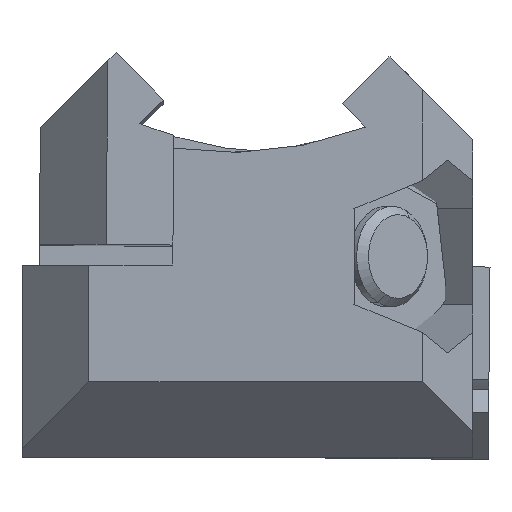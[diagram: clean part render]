
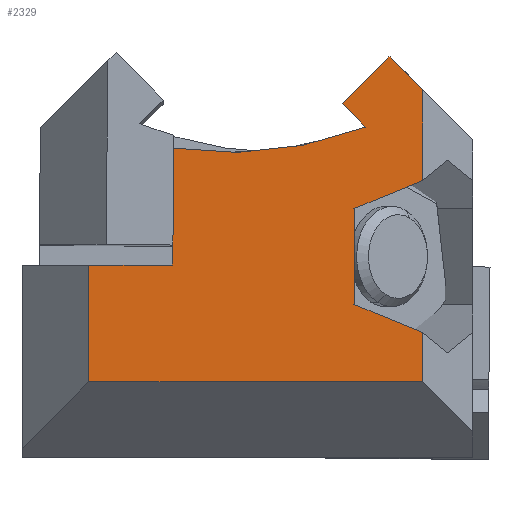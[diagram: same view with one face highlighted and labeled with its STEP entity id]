
A CAD part, left-side view. The second image highlights one B-rep face of the part: STEP entity #2329.
In plain terms, the highlighted planar face has unit normal (-1, 0, 0).
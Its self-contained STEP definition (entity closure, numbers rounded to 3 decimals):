
#41 = VECTOR ( 'NONE', #1676, 1000. ) ;
#56 = VECTOR ( 'NONE', #3188, 1000. ) ;
#78 = CARTESIAN_POINT ( 'NONE',  ( -10.8, -17.634, 19. ) ) ;
#108 = ORIENTED_EDGE ( 'NONE', *, *, #1077, .T. ) ;
#127 = DIRECTION ( 'NONE',  ( 0., 0., 1. ) ) ;
#146 = CARTESIAN_POINT ( 'NONE',  ( -10.8, -25.634, 4.5 ) ) ;
#163 = CARTESIAN_POINT ( 'NONE',  ( -10.8, -10.565, 9.121 ) ) ;
#179 = EDGE_CURVE ( 'NONE', #3234, #1334, #1851, .T. ) ;
#203 = VECTOR ( 'NONE', #2403, 1000. ) ;
#234 = AXIS2_PLACEMENT_3D ( 'NONE', #1152, #3033, #1417 ) ;
#255 = VECTOR ( 'NONE', #127, 1000. ) ;
#280 = ORIENTED_EDGE ( 'NONE', *, *, #2457, .F. ) ;
#312 = CARTESIAN_POINT ( 'NONE',  ( -10.8, 5.366, 4.5 ) ) ;
#350 = CARTESIAN_POINT ( 'NONE',  ( -10.8, -14.634, 22. ) ) ;
#385 = EDGE_CURVE ( 'NONE', #3184, #3446, #401, .T. ) ;
#398 = DIRECTION ( 'NONE',  ( 0., 0., 1. ) ) ;
#401 = LINE ( 'NONE', #473, #549 ) ;
#473 = CARTESIAN_POINT ( 'NONE',  ( -10.8, -12.678, 23.956 ) ) ;
#536 = CARTESIAN_POINT ( 'NONE',  ( -10.8, 11.725, 18.221 ) ) ;
#549 = VECTOR ( 'NONE', #2080, 1000. ) ;
#610 = CARTESIAN_POINT ( 'NONE',  ( -10.8, 9.366, 11.5 ) ) ;
#655 = ORIENTED_EDGE ( 'NONE', *, *, #385, .F. ) ;
#657 = VECTOR ( 'NONE', #398, 1000. ) ;
#691 = VERTEX_POINT ( 'NONE', #1991 ) ;
#696 = ORIENTED_EDGE ( 'NONE', *, *, #1262, .F. ) ;
#711 = VERTEX_POINT ( 'NONE', #163 ) ;
#814 = VERTEX_POINT ( 'NONE', #1584 ) ;
#857 = LINE ( 'NONE', #2115, #1492 ) ;
#871 = DIRECTION ( 'NONE',  ( 0., 0.707, 0.707 ) ) ;
#929 = LINE ( 'NONE', #3049, #1721 ) ;
#930 = CARTESIAN_POINT ( 'NONE',  ( -10.8, -3.071, 40.838 ) ) ;
#984 = DIRECTION ( 'NONE',  ( 0., 0., 1. ) ) ;
#998 = VERTEX_POINT ( 'NONE', #312 ) ;
#1014 = ORIENTED_EDGE ( 'NONE', *, *, #3011, .T. ) ;
#1059 = ORIENTED_EDGE ( 'NONE', *, *, #2738, .F. ) ;
#1077 = EDGE_CURVE ( 'NONE', #711, #2038, #2129, .T. ) ;
#1152 = CARTESIAN_POINT ( 'NONE',  ( -10.8, 9.366, 24. ) ) ;
#1196 = CARTESIAN_POINT ( 'NONE',  ( -10.8, -14.634, -22.544 ) ) ;
#1203 = DIRECTION ( 'NONE',  ( 0., -1., 0. ) ) ;
#1226 = LINE ( 'NONE', #2530, #2467 ) ;
#1258 = CARTESIAN_POINT ( 'NONE',  ( -10.8, 5.366, 11.5 ) ) ;
#1262 = EDGE_CURVE ( 'NONE', #1863, #1385, #929, .T. ) ;
#1309 = CARTESIAN_POINT ( 'NONE',  ( -10.8, -9.806, 21.172 ) ) ;
#1324 = EDGE_CURVE ( 'NONE', #3446, #1334, #2830, .T. ) ;
#1334 = VERTEX_POINT ( 'NONE', #350 ) ;
#1361 = DIRECTION ( 'NONE',  ( 0., -0.926, 0.378 ) ) ;
#1363 = LINE ( 'NONE', #1990, #657 ) ;
#1385 = VERTEX_POINT ( 'NONE', #3061 ) ;
#1407 = EDGE_CURVE ( 'NONE', #998, #3211, #1226, .T. ) ;
#1417 = DIRECTION ( 'NONE',  ( 0., 1., 0. ) ) ;
#1466 = ORIENTED_EDGE ( 'NONE', *, *, #1324, .F. ) ;
#1492 = VECTOR ( 'NONE', #3471, 1000. ) ;
#1507 = CARTESIAN_POINT ( 'NONE',  ( -10.8, -12.591, 23.956 ) ) ;
#1584 = CARTESIAN_POINT ( 'NONE',  ( -10.8, -14.634, 4.5 ) ) ;
#1625 = EDGE_LOOP ( 'NONE', ( #108, #2884, #1804, #1466, #655, #2141, #696, #3116, #1059, #2863, #1718, #280, #1014, #3368 ) ) ;
#1626 = LINE ( 'NONE', #536, #203 ) ;
#1642 = VECTOR ( 'NONE', #2011, 1000. ) ;
#1676 = DIRECTION ( 'NONE',  ( 0., -0.707, -0.707 ) ) ;
#1681 = CARTESIAN_POINT ( 'NONE',  ( -10.8, -14.634, 7.459 ) ) ;
#1685 = VECTOR ( 'NONE', #1361, 1000. ) ;
#1716 = DIRECTION ( 'NONE',  ( 0., 0., 1. ) ) ;
#1718 = ORIENTED_EDGE ( 'NONE', *, *, #1407, .F. ) ;
#1721 = VECTOR ( 'NONE', #871, 1000. ) ;
#1727 = AXIS2_PLACEMENT_3D ( 'NONE', #930, #2817, #1203 ) ;
#1747 = EDGE_CURVE ( 'NONE', #2925, #711, #1626, .T. ) ;
#1804 = ORIENTED_EDGE ( 'NONE', *, *, #179, .T. ) ;
#1851 = LINE ( 'NONE', #1196, #255 ) ;
#1863 = VERTEX_POINT ( 'NONE', #1915 ) ;
#1869 = CARTESIAN_POINT ( 'NONE',  ( -10.8, 0.366, 18.5 ) ) ;
#1915 = CARTESIAN_POINT ( 'NONE',  ( -10.8, -11.22, 19.757 ) ) ;
#1990 = CARTESIAN_POINT ( 'NONE',  ( -10.8, -14.634, -22.544 ) ) ;
#1991 = CARTESIAN_POINT ( 'NONE',  ( -10.8, 0.366, 11.5 ) ) ;
#2011 = DIRECTION ( 'NONE',  ( 0., 1., 0. ) ) ;
#2037 = EDGE_CURVE ( 'NONE', #1385, #3184, #2844, .T. ) ;
#2038 = VERTEX_POINT ( 'NONE', #2824 ) ;
#2063 = FACE_OUTER_BOUND ( 'NONE', #1625, .T. ) ;
#2072 = CIRCLE ( 'NONE', #1727, 22.601 ) ;
#2080 = DIRECTION ( 'NONE',  ( 0., -1., 0. ) ) ;
#2115 = CARTESIAN_POINT ( 'NONE',  ( -10.8, 0.366, 11.5 ) ) ;
#2129 = LINE ( 'NONE', #2879, #2576 ) ;
#2134 = VERTEX_POINT ( 'NONE', #1869 ) ;
#2141 = ORIENTED_EDGE ( 'NONE', *, *, #2037, .F. ) ;
#2155 = EDGE_CURVE ( 'NONE', #2038, #3234, #2394, .T. ) ;
#2237 = VECTOR ( 'NONE', #3317, 1000. ) ;
#2329 = ADVANCED_FACE ( 'NONE', ( #2063 ), #3299, .F. ) ;
#2355 = LINE ( 'NONE', #146, #1642 ) ;
#2394 = LINE ( 'NONE', #3232, #1685 ) ;
#2403 = DIRECTION ( 'NONE',  ( 0., 0.926, 0.378 ) ) ;
#2457 = EDGE_CURVE ( 'NONE', #814, #998, #2355, .T. ) ;
#2467 = VECTOR ( 'NONE', #1716, 1000. ) ;
#2530 = CARTESIAN_POINT ( 'NONE',  ( -10.8, 5.366, -23.5 ) ) ;
#2576 = VECTOR ( 'NONE', #984, 1000. ) ;
#2709 = CARTESIAN_POINT ( 'NONE',  ( -10.8, -12.678, 23.956 ) ) ;
#2738 = EDGE_CURVE ( 'NONE', #691, #2134, #857, .T. ) ;
#2817 = DIRECTION ( 'NONE',  ( -1., 0., 0. ) ) ;
#2824 = CARTESIAN_POINT ( 'NONE',  ( -10.8, -10.565, 14.894 ) ) ;
#2830 = LINE ( 'NONE', #78, #41 ) ;
#2844 = LINE ( 'NONE', #1309, #56 ) ;
#2863 = ORIENTED_EDGE ( 'NONE', *, *, #2946, .F. ) ;
#2879 = CARTESIAN_POINT ( 'NONE',  ( -10.8, -10.565, 24. ) ) ;
#2884 = ORIENTED_EDGE ( 'NONE', *, *, #2155, .T. ) ;
#2925 = VERTEX_POINT ( 'NONE', #1681 ) ;
#2946 = EDGE_CURVE ( 'NONE', #3211, #691, #2959, .T. ) ;
#2959 = LINE ( 'NONE', #610, #2237 ) ;
#3011 = EDGE_CURVE ( 'NONE', #814, #2925, #1363, .T. ) ;
#3031 = EDGE_CURVE ( 'NONE', #2134, #1863, #2072, .T. ) ;
#3033 = DIRECTION ( 'NONE',  ( 1., 0., 0. ) ) ;
#3049 = CARTESIAN_POINT ( 'NONE',  ( -10.8, -9.806, 21.172 ) ) ;
#3061 = CARTESIAN_POINT ( 'NONE',  ( -10.8, -9.806, 21.172 ) ) ;
#3116 = ORIENTED_EDGE ( 'NONE', *, *, #3031, .F. ) ;
#3184 = VERTEX_POINT ( 'NONE', #1507 ) ;
#3188 = DIRECTION ( 'NONE',  ( 0., -0.707, 0.707 ) ) ;
#3189 = CARTESIAN_POINT ( 'NONE',  ( -10.8, -14.634, 16.556 ) ) ;
#3211 = VERTEX_POINT ( 'NONE', #1258 ) ;
#3232 = CARTESIAN_POINT ( 'NONE',  ( -10.8, 3.332, 9.221 ) ) ;
#3234 = VERTEX_POINT ( 'NONE', #3189 ) ;
#3299 = PLANE ( 'NONE',  #234 ) ;
#3317 = DIRECTION ( 'NONE',  ( 0., -1., 0. ) ) ;
#3368 = ORIENTED_EDGE ( 'NONE', *, *, #1747, .T. ) ;
#3446 = VERTEX_POINT ( 'NONE', #2709 ) ;
#3471 = DIRECTION ( 'NONE',  ( 0., 0., 1. ) ) ;
